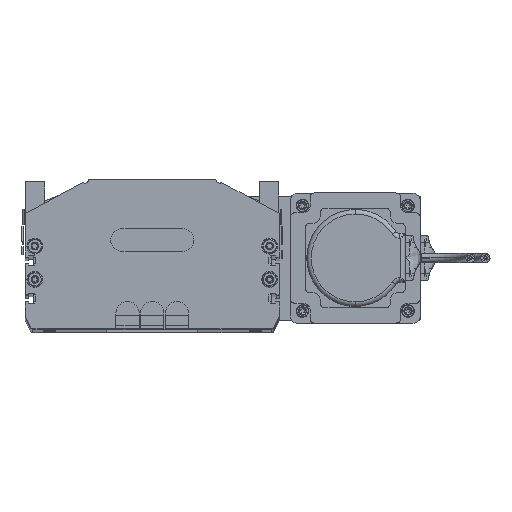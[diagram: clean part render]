
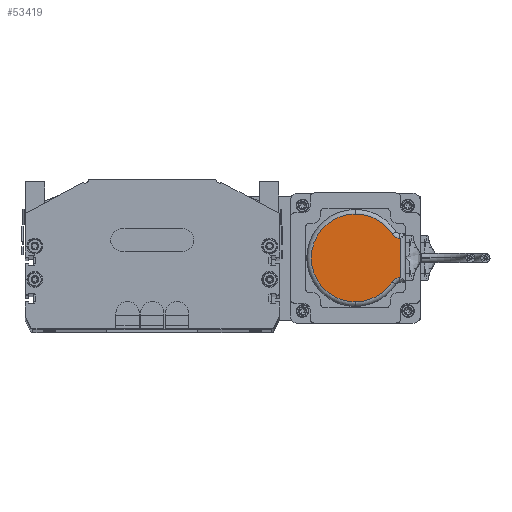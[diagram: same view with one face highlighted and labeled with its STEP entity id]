
A CAD part, top view. The second image highlights one B-rep face of the part: STEP entity #53419.
In plain terms, the highlighted planar face has unit normal (0, 0, 1).
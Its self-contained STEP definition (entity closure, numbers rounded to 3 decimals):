
#46128 = CIRCLE ( 'NONE', #46253, 29. ) ;
#46130 = DIRECTION ( 'NONE',  ( 1., 0., 0. ) ) ;
#46243 = CARTESIAN_POINT ( 'NONE',  ( 52., 62.394, 26. ) ) ;
#46249 = DIRECTION ( 'NONE',  ( 1., 0., 0. ) ) ;
#46251 = DIRECTION ( 'NONE',  ( 0., 0., 1. ) ) ;
#46253 = AXIS2_PLACEMENT_3D ( 'NONE', #46277, #46251, #46249 ) ;
#46273 = DIRECTION ( 'NONE',  ( 0., 0., 1. ) ) ;
#46277 = CARTESIAN_POINT ( 'NONE',  ( 33., 33., 26. ) ) ;
#46279 = CARTESIAN_POINT ( 'NONE',  ( 46., 63., 26. ) ) ;
#46638 = CARTESIAN_POINT ( 'NONE',  ( 20., 62.394, 26. ) ) ;
#46660 = DIRECTION ( 'NONE',  ( 1., 0., 0. ) ) ;
#46662 = DIRECTION ( 'NONE',  ( 0., 0., 1. ) ) ;
#46668 = CARTESIAN_POINT ( 'NONE',  ( 14., 62.394, 26. ) ) ;
#46675 = CIRCLE ( 'NONE', #46680, 6. ) ;
#46680 = AXIS2_PLACEMENT_3D ( 'NONE', #46668, #46662, #46660 ) ;
#46734 = AXIS2_PLACEMENT_3D ( 'NONE', #46243, #46273, #46130 ) ;
#46735 = CIRCLE ( 'NONE', #46734, 6. ) ;
#46767 = CARTESIAN_POINT ( 'NONE',  ( 17.257, 57.355, 26. ) ) ;
#46778 = CARTESIAN_POINT ( 'NONE',  ( 4., 33., 26. ) ) ;
#46788 = DIRECTION ( 'NONE',  ( 0., 1., 0. ) ) ;
#46789 = VECTOR ( 'NONE', #46788, 1000. ) ;
#46790 = CARTESIAN_POINT ( 'NONE',  ( 46., 33., 26. ) ) ;
#46791 = LINE ( 'NONE', #46790, #46789 ) ;
#46811 = CARTESIAN_POINT ( 'NONE',  ( 62., 33., 26. ) ) ;
#46824 = DIRECTION ( 'NONE',  ( 1., 0., 0. ) ) ;
#46825 = DIRECTION ( 'NONE',  ( 0., 0., 1. ) ) ;
#46826 = CARTESIAN_POINT ( 'NONE',  ( 33., 33., 26. ) ) ;
#46827 = AXIS2_PLACEMENT_3D ( 'NONE', #46826, #46825, #46824 ) ;
#46847 = CIRCLE ( 'NONE', #46827, 29. ) ;
#46883 = DIRECTION ( 'NONE',  ( 1., 0., 0. ) ) ;
#46884 = DIRECTION ( 'NONE',  ( 0., 0., 1. ) ) ;
#46885 = CARTESIAN_POINT ( 'NONE',  ( 33., 33., 26. ) ) ;
#46887 = AXIS2_PLACEMENT_3D ( 'NONE', #46885, #46884, #46883 ) ;
#46892 = PLANE ( 'NONE',  #46959 ) ;
#46901 = CARTESIAN_POINT ( 'NONE',  ( 46., 62.394, 26. ) ) ;
#46904 = FACE_OUTER_BOUND ( 'NONE', #53421, .T. ) ;
#46906 = CIRCLE ( 'NONE', #46887, 29. ) ;
#46940 = DIRECTION ( 'NONE',  ( 1., 0., 0. ) ) ;
#46942 = DIRECTION ( 'NONE',  ( 0., 0., 1. ) ) ;
#46943 = CARTESIAN_POINT ( 'NONE',  ( 33., 33., 26. ) ) ;
#46959 = AXIS2_PLACEMENT_3D ( 'NONE', #46943, #46942, #46940 ) ;
#46964 = CARTESIAN_POINT ( 'NONE',  ( 48.743, 57.355, 26. ) ) ;
#46999 = DIRECTION ( 'NONE',  ( -1., 0., 0. ) ) ;
#47000 = VECTOR ( 'NONE', #46999, 1000. ) ;
#47002 = CARTESIAN_POINT ( 'NONE',  ( 17.5, 63., 26. ) ) ;
#47012 = LINE ( 'NONE', #47002, #47000 ) ;
#47088 = DIRECTION ( 'NONE',  ( 0., -1., 0. ) ) ;
#47089 = VECTOR ( 'NONE', #47088, 1000. ) ;
#47091 = CARTESIAN_POINT ( 'NONE',  ( 20., 33., 26. ) ) ;
#47097 = LINE ( 'NONE', #47091, #47089 ) ;
#47106 = CARTESIAN_POINT ( 'NONE',  ( 20., 63., 26. ) ) ;
#53334 = EDGE_CURVE ( 'NONE', #53383, #53341, #46675, .T. ) ;
#53335 = ORIENTED_EDGE ( 'NONE', *, *, #53406, .T. ) ;
#53341 = VERTEX_POINT ( 'NONE', #46638 ) ;
#53345 = ORIENTED_EDGE ( 'NONE', *, *, #53352, .T. ) ;
#53352 = EDGE_CURVE ( 'NONE', #53394, #53422, #46128, .T. ) ;
#53353 = VERTEX_POINT ( 'NONE', #46279 ) ;
#53354 = EDGE_CURVE ( 'NONE', #53407, #53422, #46735, .T. ) ;
#53355 = ORIENTED_EDGE ( 'NONE', *, *, #53354, .F. ) ;
#53356 = EDGE_CURVE ( 'NONE', #53407, #53353, #46791, .T. ) ;
#53357 = ORIENTED_EDGE ( 'NONE', *, *, #53356, .T. ) ;
#53358 = ORIENTED_EDGE ( 'NONE', *, *, #53446, .T. ) ;
#53377 = VERTEX_POINT ( 'NONE', #46778 ) ;
#53383 = VERTEX_POINT ( 'NONE', #46767 ) ;
#53387 = EDGE_CURVE ( 'NONE', #53383, #53377, #46847, .T. ) ;
#53394 = VERTEX_POINT ( 'NONE', #46811 ) ;
#53406 = EDGE_CURVE ( 'NONE', #53377, #53394, #46906, .T. ) ;
#53407 = VERTEX_POINT ( 'NONE', #46901 ) ;
#53416 = ORIENTED_EDGE ( 'NONE', *, *, #53387, .T. ) ;
#53419 = ADVANCED_FACE ( 'NONE', ( #46904 ), #46892, .T. ) ;
#53421 = EDGE_LOOP ( 'NONE', ( #53423, #53416, #53335, #53345, #53355, #53357, #53358, #53442 ) ) ;
#53422 = VERTEX_POINT ( 'NONE', #46964 ) ;
#53423 = ORIENTED_EDGE ( 'NONE', *, *, #53334, .F. ) ;
#53442 = ORIENTED_EDGE ( 'NONE', *, *, #53455, .T. ) ;
#53446 = EDGE_CURVE ( 'NONE', #53353, #53460, #47012, .T. ) ;
#53455 = EDGE_CURVE ( 'NONE', #53460, #53341, #47097, .T. ) ;
#53460 = VERTEX_POINT ( 'NONE', #47106 ) ;
